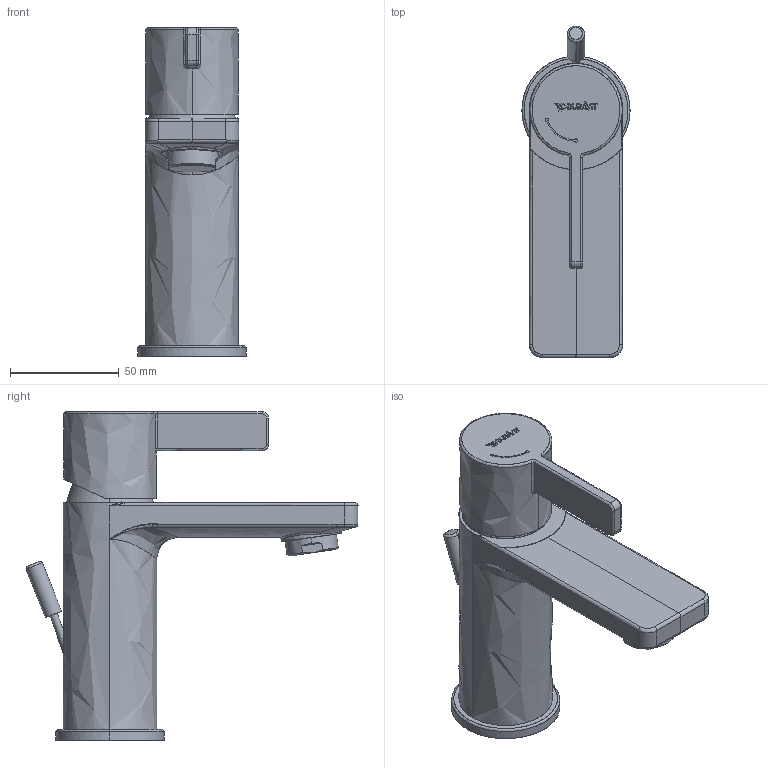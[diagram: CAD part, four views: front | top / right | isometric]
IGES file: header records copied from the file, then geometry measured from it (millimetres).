
Global section: file name: d:\users\matthias.isele\Desktop\planungsdaten_erstellen\Armaturen\D-Neo\DE1011001010\DE1011001010.igs; native system: Rhinoceros ( Sep 13 2016 ); preprocessor: Trout Lake IGES 012 Sep 13 2016; date: 210622.072314; units: millimetre
Bounding box: 49.8 x 152.85 x 151.32 mm (x, y, z)
Surface area: 41266.8 mm2 (no closed solid volume)
Topology: 0 solids, 0 shells, 258 faces, 2165 edges, 2160 vertices
Faces by surface type: bspline 258
